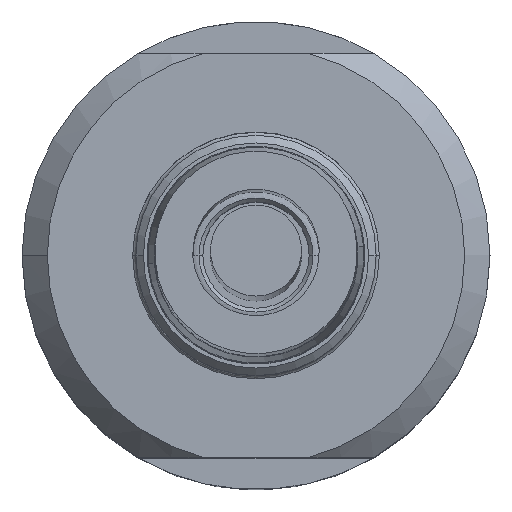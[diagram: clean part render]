
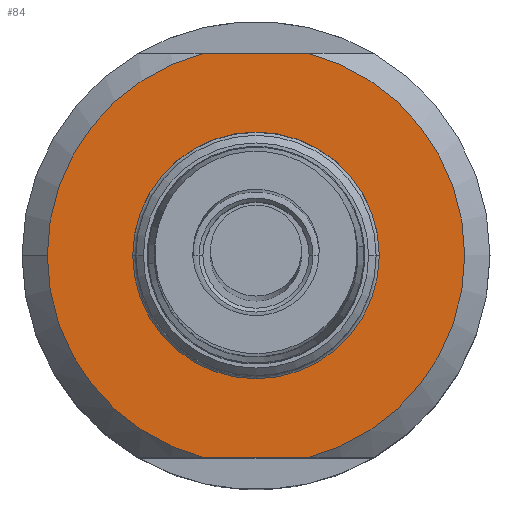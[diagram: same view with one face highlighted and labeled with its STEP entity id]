
A CAD part, top view. The second image highlights one B-rep face of the part: STEP entity #84.
In plain terms, the highlighted planar face has unit normal (0, 0, 1).
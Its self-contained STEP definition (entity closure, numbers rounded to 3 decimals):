
#54 = EDGE_LOOP ( 'NONE', ( #3152, #4285 ) ) ;
#84 = ADVANCED_FACE ( 'NONE', ( #2666, #5885 ), #4440, .T. ) ;
#140 = DIRECTION ( 'NONE',  ( 0., 0., 1. ) ) ;
#363 = ORIENTED_EDGE ( 'NONE', *, *, #1613, .T. ) ;
#426 = CIRCLE ( 'NONE', #1414, 8.25 ) ;
#518 = CIRCLE ( 'NONE', #4129, 4.875 ) ;
#585 = EDGE_LOOP ( 'NONE', ( #4638, #5326, #2584, #363, #5771 ) ) ;
#637 = DIRECTION ( 'NONE',  ( 0., 0., -1. ) ) ;
#668 = EDGE_CURVE ( 'NONE', #3074, #4263, #699, .T. ) ;
#699 = CIRCLE ( 'NONE', #2907, 8.25 ) ;
#817 = DIRECTION ( 'NONE',  ( -1., 0., 0. ) ) ;
#1142 = DIRECTION ( 'NONE',  ( -1., 0., 0. ) ) ;
#1317 = VECTOR ( 'NONE', #1394, 1000. ) ;
#1394 = DIRECTION ( 'NONE',  ( -1., 0., 0. ) ) ;
#1414 = AXIS2_PLACEMENT_3D ( 'NONE', #1554, #4374, #2971 ) ;
#1554 = CARTESIAN_POINT ( 'NONE',  ( 0., 0., 20.3 ) ) ;
#1610 = CARTESIAN_POINT ( 'NONE',  ( 0., 0., 20.3 ) ) ;
#1613 = EDGE_CURVE ( 'NONE', #3074, #2383, #1810, .T. ) ;
#1810 = LINE ( 'NONE', #3749, #1317 ) ;
#1835 = DIRECTION ( 'NONE',  ( -1., 0., 0. ) ) ;
#1968 = EDGE_CURVE ( 'NONE', #5611, #4263, #2088, .T. ) ;
#1987 = CARTESIAN_POINT ( 'NONE',  ( -8.25, 0., 20.3 ) ) ;
#2065 = DIRECTION ( 'NONE',  ( 1., 0., 0. ) ) ;
#2088 = LINE ( 'NONE', #4435, #4125 ) ;
#2194 = CARTESIAN_POINT ( 'NONE',  ( 0., 8.25, 20.3 ) ) ;
#2383 = VERTEX_POINT ( 'NONE', #3028 ) ;
#2584 = ORIENTED_EDGE ( 'NONE', *, *, #668, .F. ) ;
#2666 = FACE_BOUND ( 'NONE', #54, .T. ) ;
#2751 = CARTESIAN_POINT ( 'NONE',  ( 0., 0., 20.3 ) ) ;
#2907 = AXIS2_PLACEMENT_3D ( 'NONE', #2751, #3743, #1835 ) ;
#2971 = DIRECTION ( 'NONE',  ( -1., 0., 0. ) ) ;
#3028 = CARTESIAN_POINT ( 'NONE',  ( -2.016, 8., 20.3 ) ) ;
#3074 = VERTEX_POINT ( 'NONE', #3431 ) ;
#3124 = EDGE_CURVE ( 'NONE', #5611, #3685, #4008, .T. ) ;
#3152 = ORIENTED_EDGE ( 'NONE', *, *, #4271, .T. ) ;
#3178 = VERTEX_POINT ( 'NONE', #4110 ) ;
#3338 = CARTESIAN_POINT ( 'NONE',  ( 2.016, -8., 20.3 ) ) ;
#3351 = EDGE_CURVE ( 'NONE', #3178, #4525, #4409, .T. ) ;
#3420 = CARTESIAN_POINT ( 'NONE',  ( -2.016, -8., 20.3 ) ) ;
#3431 = CARTESIAN_POINT ( 'NONE',  ( 2.016, 8., 20.3 ) ) ;
#3444 = DIRECTION ( 'NONE',  ( -1., 0., 0. ) ) ;
#3598 = AXIS2_PLACEMENT_3D ( 'NONE', #2194, #140, #2065 ) ;
#3685 = VERTEX_POINT ( 'NONE', #1987 ) ;
#3743 = DIRECTION ( 'NONE',  ( 0., 0., -1. ) ) ;
#3749 = CARTESIAN_POINT ( 'NONE',  ( -23.067, 8., 20.3 ) ) ;
#3793 = CARTESIAN_POINT ( 'NONE',  ( -4.875, 0., 20.3 ) ) ;
#3992 = DIRECTION ( 'NONE',  ( 1., 0., 0. ) ) ;
#4008 = CIRCLE ( 'NONE', #4507, 8.25 ) ;
#4110 = CARTESIAN_POINT ( 'NONE',  ( 4.875, 0., 20.3 ) ) ;
#4125 = VECTOR ( 'NONE', #3992, 1000. ) ;
#4129 = AXIS2_PLACEMENT_3D ( 'NONE', #1610, #637, #1142 ) ;
#4263 = VERTEX_POINT ( 'NONE', #3338 ) ;
#4271 = EDGE_CURVE ( 'NONE', #4525, #3178, #518, .T. ) ;
#4285 = ORIENTED_EDGE ( 'NONE', *, *, #3351, .T. ) ;
#4374 = DIRECTION ( 'NONE',  ( 0., 0., -1. ) ) ;
#4409 = CIRCLE ( 'NONE', #5411, 4.875 ) ;
#4435 = CARTESIAN_POINT ( 'NONE',  ( -23.067, -8., 20.3 ) ) ;
#4440 = PLANE ( 'NONE',  #3598 ) ;
#4507 = AXIS2_PLACEMENT_3D ( 'NONE', #5097, #5547, #817 ) ;
#4525 = VERTEX_POINT ( 'NONE', #3793 ) ;
#4541 = DIRECTION ( 'NONE',  ( 0., 0., -1. ) ) ;
#4638 = ORIENTED_EDGE ( 'NONE', *, *, #3124, .F. ) ;
#5097 = CARTESIAN_POINT ( 'NONE',  ( 0., 0., 20.3 ) ) ;
#5326 = ORIENTED_EDGE ( 'NONE', *, *, #1968, .T. ) ;
#5408 = EDGE_CURVE ( 'NONE', #3685, #2383, #426, .T. ) ;
#5411 = AXIS2_PLACEMENT_3D ( 'NONE', #5828, #4541, #3444 ) ;
#5547 = DIRECTION ( 'NONE',  ( 0., 0., -1. ) ) ;
#5611 = VERTEX_POINT ( 'NONE', #3420 ) ;
#5771 = ORIENTED_EDGE ( 'NONE', *, *, #5408, .F. ) ;
#5828 = CARTESIAN_POINT ( 'NONE',  ( 0., 0., 20.3 ) ) ;
#5885 = FACE_OUTER_BOUND ( 'NONE', #585, .T. ) ;
